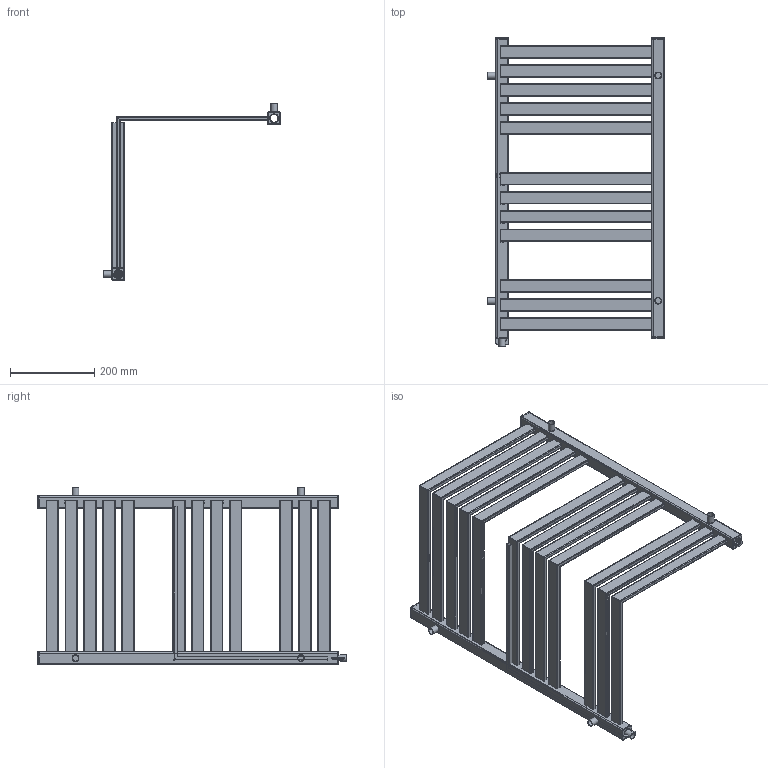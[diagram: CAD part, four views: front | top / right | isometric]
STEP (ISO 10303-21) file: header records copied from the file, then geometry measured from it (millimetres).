
FILE_DESCRIPTION( ( 'Unknown' ), '1' );
FILE_NAME( 'D:/Alplast sp. j/Witryna zespoBu - Projekty/Archiwum/Grzejniki Archiwum/Projekty/DESIGN PROGRAM/CORNER ALFA I BETA/CORNER BETA 2.stp', 'Unknown', ( 'Unknown' ), ( 'Unknown' ), 'PSStep 10.1', 'Unknown', ' ' );
FILE_SCHEMA( ( 'AUTOMOTIVE_DESIGN { 1 0 10303 214 1 1 1 1 }' ) );
Length unit declared in the file: millimetre
Products named in the file (6): kana³ po giêciu; Assem1; kana³y 30x10 czêœæ do giêcia; AK2-N; zaslepka kwadrat otwor; mocowanie
Bounding box: 420 x 733 x 420 mm (x, y, z)
Volume: 1268458.7 mm3; surface area: 1888411.4 mm2
Topology: 40 solids, 40 shells, 1076 faces, 2985 edges, 1972 vertices
Faces by surface type: plane 595, cylinder 471, torus 10
Full cylindrical faces by diameter (mm): 14 x5, 16 x5, 18.631 x5, 23 x5
Entity records: 6914 total; most frequent: DIRECTION 991, CARTESIAN_POINT 970, ORIENTED_EDGE 910, EDGE_CURVE 455, AXIS2_PLACEMENT_3D 349, VERTEX_POINT 306, LINE 293, VECTOR 293
